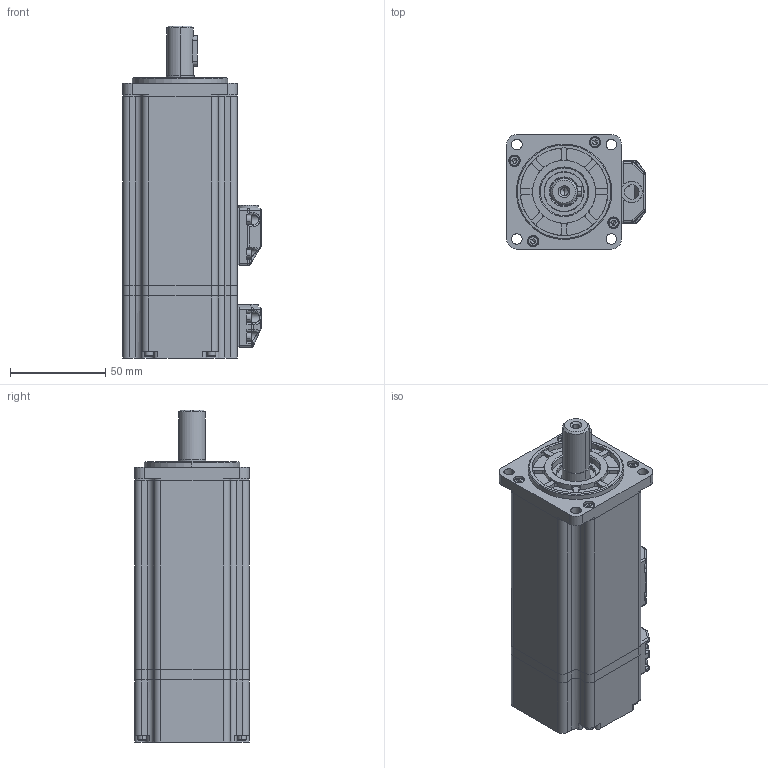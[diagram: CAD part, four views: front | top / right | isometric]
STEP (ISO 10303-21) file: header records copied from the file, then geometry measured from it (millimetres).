
FILE_DESCRIPTION (( 'STEP AP203' ), '1' );
FILE_NAME ('淕儂蚾饜.STEP', '2020-03-17T06:26:35', ( 'admin' ), ( '' ), 'SwSTEP 2.0', 'SolidWorks 2016', '' );
FILE_SCHEMA (( 'CONFIG_CONTROL_DESIGN' ));
Length unit declared in the file: millimetre
Products named in the file (1): 淕儂蚾饜
Bounding box: 72.5 x 60 x 174 mm (x, y, z)
Volume: 182773.6 mm3; surface area: 112179.7 mm2
Topology: 28 solids, 28 shells, 1589 faces, 4254 edges, 2662 vertices
Faces by surface type: cylinder 659, plane 594, cone 148, torus 94, sphere 70, bspline 24
Entity records: 52622 total; most frequent: CARTESIAN_POINT 13038, DIRECTION 8619, ORIENTED_EDGE 8148, EDGE_CURVE 4074, AXIS2_PLACEMENT_3D 3355, VERTEX_POINT 2598, LINE 1909, VECTOR 1909
